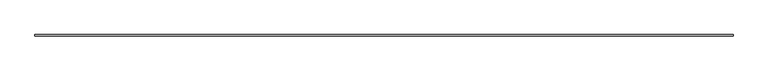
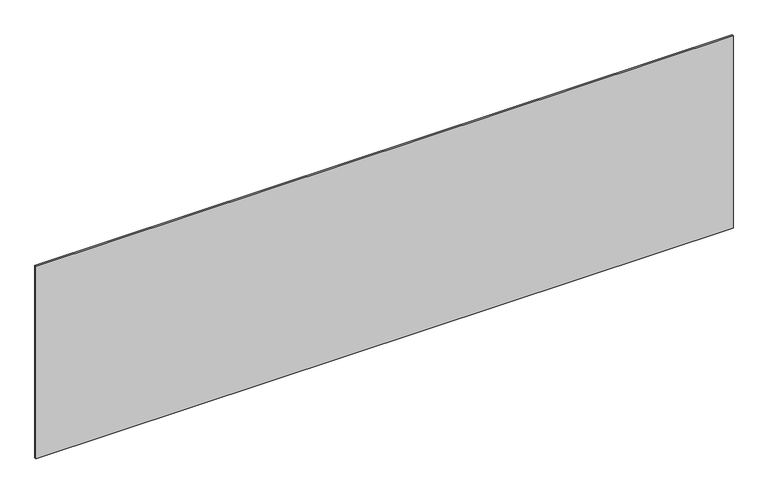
"""IFC4 building model written with IfcOpenShell, lengths in millimetres: plate geometry, システム パネル : 標準."""

from ifc_helpers import new_model, si_unit, origin, origin_with_axes, place, context, project, spatial, polyline, outline, extrude, source, transform, mapped, element, save


def plate_d95853d9(model_context):
    return source(origin(), model_context, "Body", "SweptSolid", [
        extrude(outline(polyline([(2264.1666667, -5.0), (-2264.1666667, -5.0), (-2264.1666667, 5.0), (2264.1666667, 5.0), (2264.1666667, -5.0)])), origin_with_axes(), (0.0, 0.0, 1.0), 1322.2777309),
    ])


if __name__ == "__main__":
    model = new_model("IFC4")
    model_context = context("Model", 3, world=origin())
    ifc_project = project(units=[si_unit("LENGTHUNIT", "METRE", prefix="MILLI")], contexts=[model_context])
    site = spatial("IfcSite", under=ifc_project)
    building = spatial("IfcBuilding", under=site)
    placement = place(None, origin())
    plate_shape = plate_d95853d9(model_context)
    element("IfcPlate", 1, ObjectType="システム パネル : 標準", at=placement, inside=building, context=model_context, shape_type="MappedRepresentation", body=[
        mapped(plate_shape, transform((0.0, 0.0, 0.0), x_axis=(1.0, 0.0, 0.0), y_axis=(0.0, 1.0, 0.0), z_axis=(0.0, 0.0, 1.0))),
    ])
    save(model, "model.ifc")
